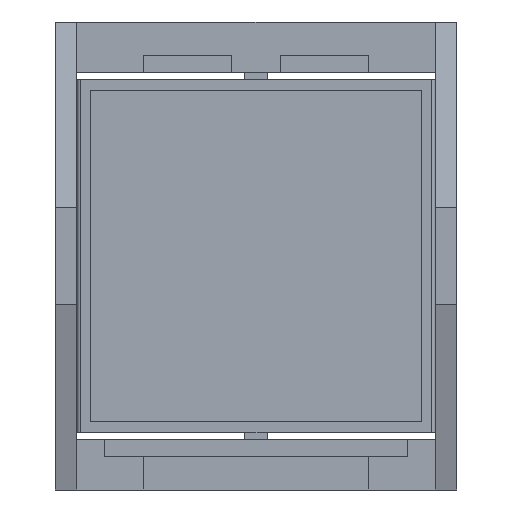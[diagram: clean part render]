
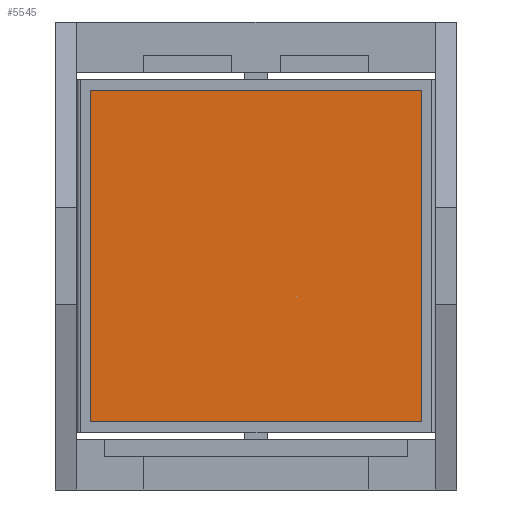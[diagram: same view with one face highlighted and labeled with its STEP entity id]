
A CAD part, front view. The second image highlights one B-rep face of the part: STEP entity #5545.
In plain terms, the highlighted planar face has unit normal (0, -1, 0).
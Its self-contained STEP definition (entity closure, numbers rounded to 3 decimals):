
#73 = EDGE_LOOP ( 'NONE', ( #1053, #2911, #6816, #6190 ) ) ;
#85 = LINE ( 'NONE', #1645, #5129 ) ;
#178 = CARTESIAN_POINT ( 'NONE',  ( 15.605, -7.836, 13.807 ) ) ;
#222 = DIRECTION ( 'NONE',  ( 1., 0., 0. ) ) ;
#243 = DIRECTION ( 'NONE',  ( 0., -1., 0. ) ) ;
#690 = VECTOR ( 'NONE', #222, 1000. ) ;
#1047 = PLANE ( 'NONE',  #7097 ) ;
#1053 = ORIENTED_EDGE ( 'NONE', *, *, #2669, .T. ) ;
#1400 = CARTESIAN_POINT ( 'NONE',  ( -6.395, -7.836, 13.807 ) ) ;
#1645 = CARTESIAN_POINT ( 'NONE',  ( 15.605, -7.836, 13.807 ) ) ;
#2586 = VECTOR ( 'NONE', #3687, 1000. ) ;
#2669 = EDGE_CURVE ( 'NONE', #5331, #5159, #3245, .T. ) ;
#2911 = ORIENTED_EDGE ( 'NONE', *, *, #3111, .T. ) ;
#2925 = LINE ( 'NONE', #5737, #4365 ) ;
#3111 = EDGE_CURVE ( 'NONE', #5159, #6035, #85, .T. ) ;
#3239 = VERTEX_POINT ( 'NONE', #4744 ) ;
#3245 = LINE ( 'NONE', #6625, #2586 ) ;
#3485 = DIRECTION ( 'NONE',  ( 0., 0., -1. ) ) ;
#3531 = EDGE_CURVE ( 'NONE', #3239, #5331, #6346, .T. ) ;
#3687 = DIRECTION ( 'NONE',  ( 0., 0., 1. ) ) ;
#4087 = CARTESIAN_POINT ( 'NONE',  ( 15.605, -7.836, -8.193 ) ) ;
#4365 = VECTOR ( 'NONE', #3485, 1000. ) ;
#4744 = CARTESIAN_POINT ( 'NONE',  ( -6.395, -7.836, -8.193 ) ) ;
#4983 = FACE_OUTER_BOUND ( 'NONE', #73, .T. ) ;
#5129 = VECTOR ( 'NONE', #5675, 1000. ) ;
#5159 = VERTEX_POINT ( 'NONE', #6041 ) ;
#5319 = DIRECTION ( 'NONE',  ( 0., 0., 1. ) ) ;
#5331 = VERTEX_POINT ( 'NONE', #4087 ) ;
#5545 = ADVANCED_FACE ( 'NONE', ( #4983 ), #1047, .T. ) ;
#5675 = DIRECTION ( 'NONE',  ( -1., 0., 0. ) ) ;
#5737 = CARTESIAN_POINT ( 'NONE',  ( -6.395, -7.836, -8.193 ) ) ;
#5849 = CARTESIAN_POINT ( 'NONE',  ( 15.605, -7.836, -8.193 ) ) ;
#6035 = VERTEX_POINT ( 'NONE', #1400 ) ;
#6041 = CARTESIAN_POINT ( 'NONE',  ( 15.605, -7.836, 13.807 ) ) ;
#6190 = ORIENTED_EDGE ( 'NONE', *, *, #3531, .T. ) ;
#6232 = EDGE_CURVE ( 'NONE', #6035, #3239, #2925, .T. ) ;
#6346 = LINE ( 'NONE', #5849, #690 ) ;
#6625 = CARTESIAN_POINT ( 'NONE',  ( 15.605, -7.836, -8.193 ) ) ;
#6816 = ORIENTED_EDGE ( 'NONE', *, *, #6232, .T. ) ;
#7097 = AXIS2_PLACEMENT_3D ( 'NONE', #178, #243, #5319 ) ;
